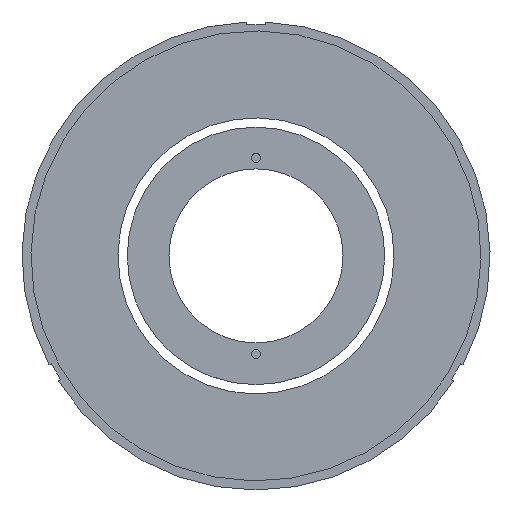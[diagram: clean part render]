
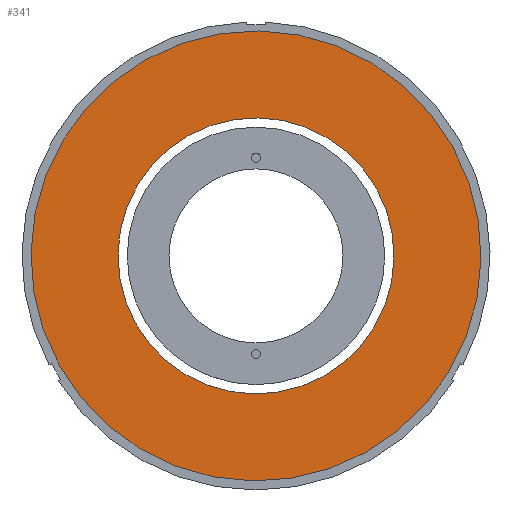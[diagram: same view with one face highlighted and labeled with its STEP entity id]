
A CAD part, front view. The second image highlights one B-rep face of the part: STEP entity #341.
In plain terms, the highlighted planar face has unit normal (0, -1, 0).
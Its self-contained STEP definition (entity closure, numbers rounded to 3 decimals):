
#253 = CIRCLE ( 'NONE', #3377, 37.5 ) ;
#341 = ADVANCED_FACE ( 'NONE', ( #1956, #2851 ), #4508, .F. ) ;
#691 = CIRCLE ( 'NONE', #2071, 23. ) ;
#698 = ORIENTED_EDGE ( 'NONE', *, *, #4999, .F. ) ;
#829 = ORIENTED_EDGE ( 'NONE', *, *, #1771, .F. ) ;
#853 = VERTEX_POINT ( 'NONE', #4711 ) ;
#1127 = DIRECTION ( 'NONE',  ( -0.19, 0., -0.982 ) ) ;
#1556 = EDGE_CURVE ( 'NONE', #853, #5242, #1562, .T. ) ;
#1562 = CIRCLE ( 'NONE', #4343, 23. ) ;
#1567 = DIRECTION ( 'NONE',  ( 0., 1., 0. ) ) ;
#1631 = EDGE_CURVE ( 'NONE', #5242, #853, #691, .T. ) ;
#1771 = EDGE_CURVE ( 'NONE', #4559, #3883, #253, .T. ) ;
#1824 = CARTESIAN_POINT ( 'NONE',  ( 19.968, 15.13, 68.13 ) ) ;
#1956 = FACE_BOUND ( 'NONE', #4221, .T. ) ;
#2068 = DIRECTION ( 'NONE',  ( -0.19, 0., -0.982 ) ) ;
#2071 = AXIS2_PLACEMENT_3D ( 'NONE', #2462, #4089, #2068 ) ;
#2095 = CARTESIAN_POINT ( 'NONE',  ( 5.688, 15.13, -5.498 ) ) ;
#2211 = AXIS2_PLACEMENT_3D ( 'NONE', #3368, #5394, #4240 ) ;
#2445 = DIRECTION ( 'NONE',  ( -0.982, 0., 0.19 ) ) ;
#2462 = CARTESIAN_POINT ( 'NONE',  ( 12.828, 15.13, 31.316 ) ) ;
#2787 = AXIS2_PLACEMENT_3D ( 'NONE', #4879, #5341, #2445 ) ;
#2851 = FACE_OUTER_BOUND ( 'NONE', #3372, .T. ) ;
#3007 = DIRECTION ( 'NONE',  ( 0., 1., 0. ) ) ;
#3058 = DIRECTION ( 'NONE',  ( -0.19, 0., -0.982 ) ) ;
#3243 = ORIENTED_EDGE ( 'NONE', *, *, #1631, .T. ) ;
#3368 = CARTESIAN_POINT ( 'NONE',  ( 12.828, 15.13, 31.316 ) ) ;
#3372 = EDGE_LOOP ( 'NONE', ( #698, #829 ) ) ;
#3377 = AXIS2_PLACEMENT_3D ( 'NONE', #4281, #3007, #3058 ) ;
#3554 = CARTESIAN_POINT ( 'NONE',  ( 8.448, 15.13, 8.737 ) ) ;
#3767 = CIRCLE ( 'NONE', #2211, 37.5 ) ;
#3883 = VERTEX_POINT ( 'NONE', #1824 ) ;
#4038 = CARTESIAN_POINT ( 'NONE',  ( 12.828, 15.13, 31.316 ) ) ;
#4089 = DIRECTION ( 'NONE',  ( 0., 1., 0. ) ) ;
#4221 = EDGE_LOOP ( 'NONE', ( #5078, #3243 ) ) ;
#4240 = DIRECTION ( 'NONE',  ( -0.19, 0., -0.982 ) ) ;
#4281 = CARTESIAN_POINT ( 'NONE',  ( 12.828, 15.13, 31.316 ) ) ;
#4343 = AXIS2_PLACEMENT_3D ( 'NONE', #4038, #1567, #1127 ) ;
#4508 = PLANE ( 'NONE',  #2787 ) ;
#4559 = VERTEX_POINT ( 'NONE', #2095 ) ;
#4711 = CARTESIAN_POINT ( 'NONE',  ( 17.207, 15.13, 53.895 ) ) ;
#4879 = CARTESIAN_POINT ( 'NONE',  ( 12.828, 15.13, 31.316 ) ) ;
#4999 = EDGE_CURVE ( 'NONE', #3883, #4559, #3767, .T. ) ;
#5078 = ORIENTED_EDGE ( 'NONE', *, *, #1556, .T. ) ;
#5242 = VERTEX_POINT ( 'NONE', #3554 ) ;
#5341 = DIRECTION ( 'NONE',  ( 0., 1., 0. ) ) ;
#5394 = DIRECTION ( 'NONE',  ( 0., 1., 0. ) ) ;
